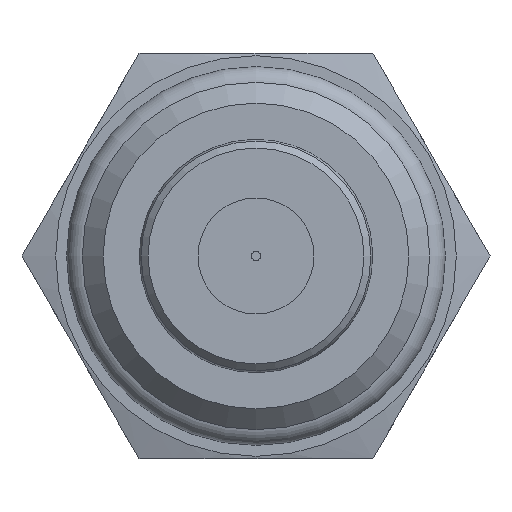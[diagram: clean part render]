
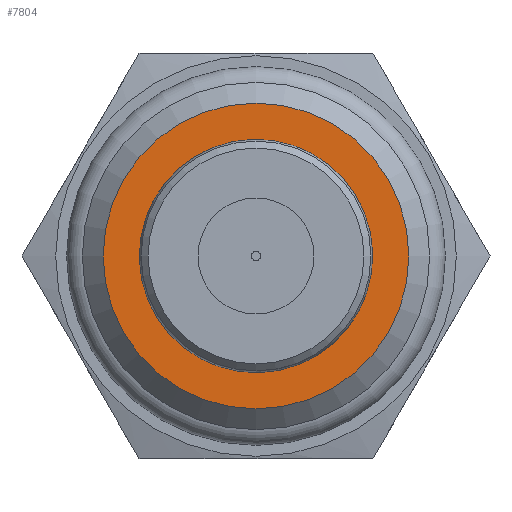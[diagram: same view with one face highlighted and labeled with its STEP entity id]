
A CAD part, front view. The second image highlights one B-rep face of the part: STEP entity #7804.
In plain terms, the highlighted planar face has unit normal (0, -1, 0).
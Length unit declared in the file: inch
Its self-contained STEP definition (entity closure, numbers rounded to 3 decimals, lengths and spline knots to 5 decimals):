
#218=CIRCLE('',#8203,0.248);
#219=CIRCLE('',#8204,0.248);
#250=CIRCLE('',#8248,0.33);
#438=FACE_BOUND('',#2797,.T.);
#2349=FACE_OUTER_BOUND('',#2796,.T.);
#2796=EDGE_LOOP('',(#6680));
#2797=EDGE_LOOP('',(#6681,#6682));
#3495=VERTEX_POINT('',#13772);
#3496=VERTEX_POINT('',#13774);
#3524=VERTEX_POINT('',#13854);
#4544=EDGE_CURVE('',#3496,#3495,#218,.T.);
#4545=EDGE_CURVE('',#3495,#3496,#219,.T.);
#4584=EDGE_CURVE('',#3524,#3524,#250,.T.);
#6680=ORIENTED_EDGE('',*,*,#4584,.F.);
#6681=ORIENTED_EDGE('',*,*,#4544,.T.);
#6682=ORIENTED_EDGE('',*,*,#4545,.T.);
#7021=PLANE('',#8252);
#7804=ADVANCED_FACE('',(#2349,#438),#7021,.F.);
#8203=AXIS2_PLACEMENT_3D('',#13775,#9621,#9622);
#8204=AXIS2_PLACEMENT_3D('',#13776,#9623,#9624);
#8248=AXIS2_PLACEMENT_3D('',#13856,#9719,#9720);
#8252=AXIS2_PLACEMENT_3D('',#13863,#9728,#9729);
#9621=DIRECTION('center_axis',(0.,1.,0.));
#9622=DIRECTION('ref_axis',(-1.,0.,0.));
#9623=DIRECTION('center_axis',(0.,1.,0.));
#9624=DIRECTION('ref_axis',(-1.,0.,0.));
#9719=DIRECTION('center_axis',(0.,1.,0.));
#9720=DIRECTION('ref_axis',(1.,0.,0.));
#9728=DIRECTION('center_axis',(0.,1.,0.));
#9729=DIRECTION('ref_axis',(0.,0.,-1.));
#13772=CARTESIAN_POINT('',(0.248,-0.8,0.));
#13774=CARTESIAN_POINT('',(-0.248,-0.8,0.));
#13775=CARTESIAN_POINT('Origin',(0.,-0.8,0.));
#13776=CARTESIAN_POINT('Origin',(0.,-0.8,0.));
#13854=CARTESIAN_POINT('',(-0.33,-0.8,0.));
#13856=CARTESIAN_POINT('Origin',(0.,-0.8,0.));
#13863=CARTESIAN_POINT('Origin',(-0.3115,-0.8,0.));
